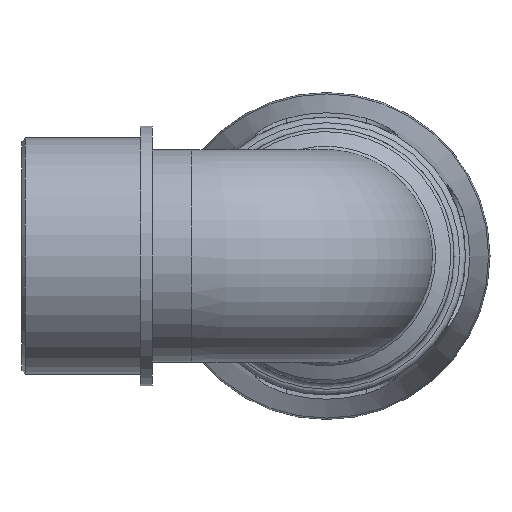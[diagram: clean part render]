
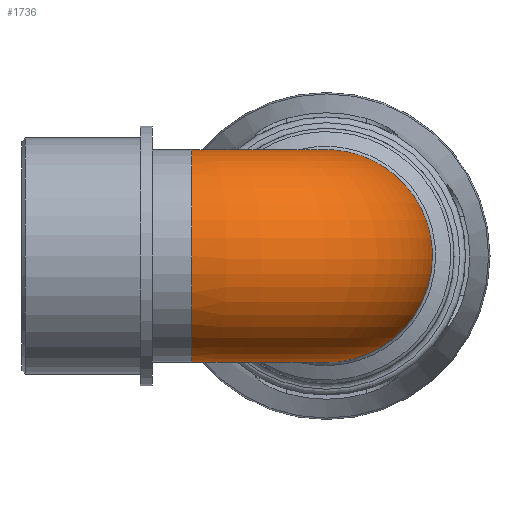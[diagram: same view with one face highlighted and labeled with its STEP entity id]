
A CAD part, left-side view. The second image highlights one B-rep face of the part: STEP entity #1736.
In plain terms, the highlighted toroidal (fillet/blend) face has major radius 23.935 mm and minor radius 18.86 mm.
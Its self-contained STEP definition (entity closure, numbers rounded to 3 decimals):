
#80=TOROIDAL_SURFACE('',#1855,23.935,18.86);
#90=FACE_BOUND('',#436,.T.);
#319=FACE_OUTER_BOUND('',#435,.T.);
#435=EDGE_LOOP('',(#1149));
#436=EDGE_LOOP('',(#1150));
#557=B_SPLINE_CURVE_WITH_KNOTS('',3,(#2646,#2647,#2648,#2649,#2650,#2651,
#2652,#2653,#2654,#2655,#2656,#2657,#2658,#2659,#2660,#2661,#2662,#2663,
#2664),.UNSPECIFIED.,.T.,.F.,(4,1,1,1,1,1,1,1,1,1,1,1,1,1,1,1,4),(-3.142,
-2.917,-2.693,-2.244,-1.795,
-1.346,-0.748,-0.449,-0.15,
0.449,0.898,1.346,1.795,2.244,
2.693,2.917,3.142),.UNSPECIFIED.);
#631=CIRCLE('',#1850,18.86);
#721=VERTEX_POINT('',#2644);
#728=VERTEX_POINT('',#2899);
#882=EDGE_CURVE('',#721,#721,#557,.T.);
#892=EDGE_CURVE('',#728,#728,#631,.T.);
#1149=ORIENTED_EDGE('',*,*,#882,.F.);
#1150=ORIENTED_EDGE('',*,*,#892,.T.);
#1736=ADVANCED_FACE('',(#319,#90),#80,.T.);
#1850=AXIS2_PLACEMENT_3D('',#2900,#2066,#2067);
#1855=AXIS2_PLACEMENT_3D('',#2908,#2076,#2077);
#2066=DIRECTION('center_axis',(0.,-1.,0.));
#2067=DIRECTION('ref_axis',(-1.,0.,0.));
#2076=DIRECTION('center_axis',(0.,0.,1.));
#2077=DIRECTION('ref_axis',(1.,0.,0.));
#2644=CARTESIAN_POINT('',(20.694,20.029,0.));
#2646=CARTESIAN_POINT('Ctrl Pts',(20.694,20.031,0.));
#2647=CARTESIAN_POINT('Ctrl Pts',(20.694,20.031,1.421));
#2648=CARTESIAN_POINT('Ctrl Pts',(20.716,19.574,4.262));
#2649=CARTESIAN_POINT('Ctrl Pts',(20.835,17.297,9.57));
#2650=CARTESIAN_POINT('Ctrl Pts',(20.972,12.589,15.162));
#2651=CARTESIAN_POINT('Ctrl Pts',(21.047,4.716,18.969));
#2652=CARTESIAN_POINT('Ctrl Pts',(21.09,-5.015,19.075));
#2653=CARTESIAN_POINT('Ctrl Pts',(21.105,-12.78,14.69));
#2654=CARTESIAN_POINT('Ctrl Pts',(21.113,-17.12,8.363));
#2655=CARTESIAN_POINT('Ctrl Pts',(21.116,-19.424,1.046));
#2656=CARTESIAN_POINT('Ctrl Pts',(21.115,-18.079,-7.773));
#2657=CARTESIAN_POINT('Ctrl Pts',(21.104,-11.952,-15.332));
#2658=CARTESIAN_POINT('Ctrl Pts',(21.086,-4.041,-19.056));
#2659=CARTESIAN_POINT('Ctrl Pts',(21.047,4.714,-18.973));
#2660=CARTESIAN_POINT('Ctrl Pts',(20.972,12.589,-15.16));
#2661=CARTESIAN_POINT('Ctrl Pts',(20.835,17.296,-9.57));
#2662=CARTESIAN_POINT('Ctrl Pts',(20.716,19.574,-4.262));
#2663=CARTESIAN_POINT('Ctrl Pts',(20.694,20.031,-1.421));
#2664=CARTESIAN_POINT('Ctrl Pts',(20.694,20.031,0.));
#2899=CARTESIAN_POINT('',(18.86,23.935,0.));
#2900=CARTESIAN_POINT('Origin',(0.,23.935,0.));
#2908=CARTESIAN_POINT('Origin',(23.935,23.935,0.));
